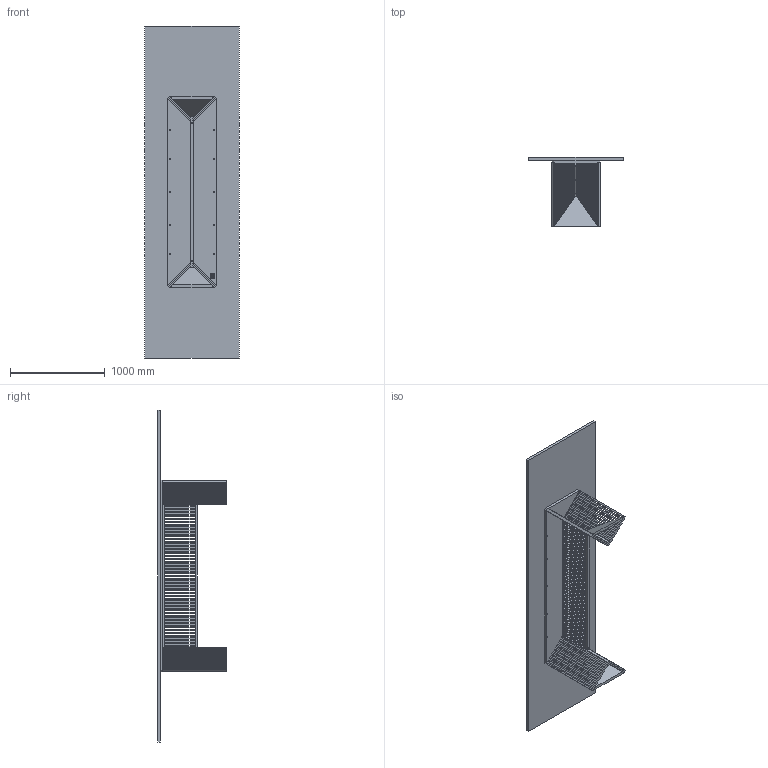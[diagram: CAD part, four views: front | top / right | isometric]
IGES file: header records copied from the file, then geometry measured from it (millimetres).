
Start section: SolidWorks IGES file using analytic representation for surfaces
Global section: file name: C:\Users\SoldaClaudio\Desktop\Maestro\004165.IGS; native system: SolidWorks 2019; preprocessor: SolidWorks 2019; author: SoldaClaudio; date: 201218.085021; units: millimetre
Bounding box: 1000 x 725.14 x 3500 mm (x, y, z)
Surface area: 15496147.4 mm2 (no closed solid volume)
Topology: 0 solids, 0 shells, 1591 faces, 11040 edges, 11040 vertices
Faces by surface type: bspline 1359, revolution 232
